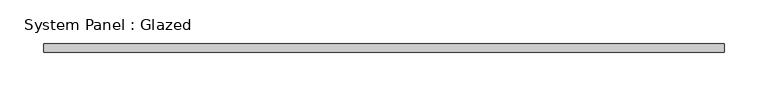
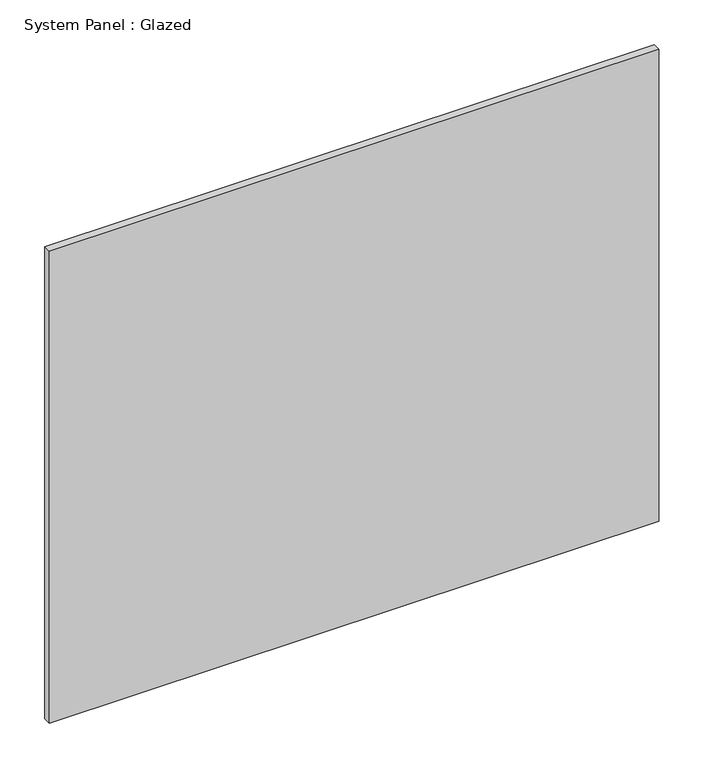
"""IFC4 building model written with IfcOpenShell, lengths in millimetres: plate geometry, System Panel : Glazed."""

from ifc_helpers import new_model, si_unit, origin, origin_with_axes, place, context, project, spatial, polyline, outline, extrude, source, transform, mapped, element, save


def system_panel_glazed_296a7ac9(model_context):
    return source(origin(), model_context, "Body", "SweptSolid", [
        extrude(outline(polyline([(390.8352626, -5.0), (-390.8352626, -5.0), (-390.8352626, 5.0), (390.8352626, 5.0), (390.8352626, -5.0)])), origin_with_axes(), (0.0, 0.0, 1.0), 640.0),
    ])


if __name__ == "__main__":
    model = new_model("IFC4")
    model_context = context("Model", 3, world=origin())
    ifc_project = project(units=[si_unit("LENGTHUNIT", "METRE", prefix="MILLI")], contexts=[model_context])
    site = spatial("IfcSite", under=ifc_project)
    building = spatial("IfcBuilding", under=site)
    placement = place(None, origin())
    system_panel_glazed_shape = system_panel_glazed_296a7ac9(model_context)
    element("IfcPlate", 1, ObjectType="System Panel : Glazed", at=placement, inside=building, context=model_context, shape_type="MappedRepresentation", body=[
        mapped(system_panel_glazed_shape, transform((0.0, 0.0, 0.0), x_axis=(1.0, 0.0, 0.0), y_axis=(0.0, 1.0, 0.0), z_axis=(0.0, 0.0, 1.0))),
    ])
    save(model, "model.ifc")
